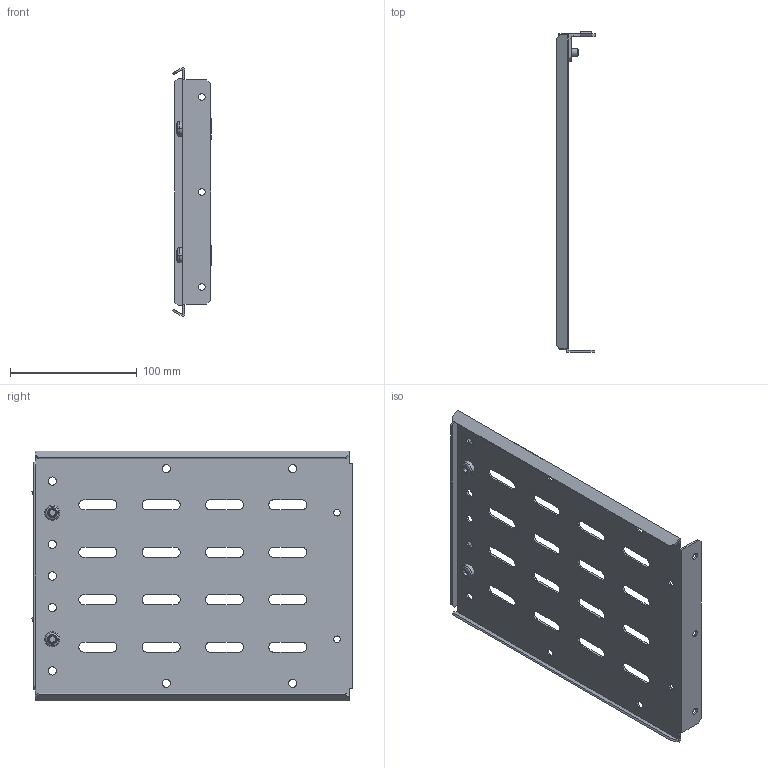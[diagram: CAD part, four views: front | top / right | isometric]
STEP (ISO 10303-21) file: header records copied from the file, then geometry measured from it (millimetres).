
FILE_DESCRIPTION (( 'STEP AP214' ), '1' );
FILE_NAME ('FO-00-SWFB-020 Ïåðåãîðîäêà ñåêöèîíèðîâàíèÿ çàäíÿÿ äëÿ âåðòèêàëüíîãî øèííîãî îòñåêà âûñîòà 200 ìì â øêàô øèðèíîé 600 ìì.STEP', '2025-08-08T11:26:43', ( '' ), ( '' ), 'SwSTEP 2.0', 'SolidWorks 2023', '' );
FILE_SCHEMA (( 'AUTOMOTIVE_DESIGN' ));
Length unit declared in the file: millimetre
Products named in the file (1): FO-00-SWFB-020 Перегородка секционирования задняя для вертикального шинного отсека высота 200 мм в шкаф шириной 600 мм
Bounding box: 30.53 x 253.25 x 197.3 mm (x, y, z)
Volume: 86464.6 mm3; surface area: 115412 mm2
Topology: 1 solids, 3 shells, 268 faces, 752 edges, 496 vertices
Faces by surface type: plane 126, cylinder 126, cone 8, torus 8
Entity records: 8859 total; most frequent: DIRECTION 1566, CARTESIAN_POINT 1517, ORIENTED_EDGE 1504, EDGE_CURVE 752, AXIS2_PLACEMENT_3D 545, VERTEX_POINT 496, VECTOR 476, LINE 476
